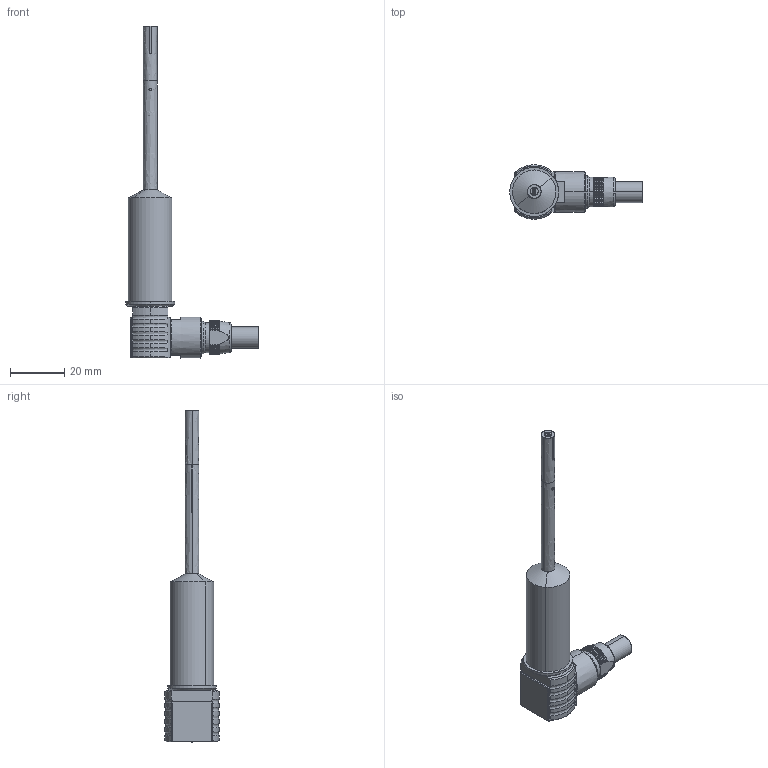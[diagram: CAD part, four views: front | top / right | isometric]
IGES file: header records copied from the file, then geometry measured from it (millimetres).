
Start section: SolidWorks IGES file using analytic representation for surfaces
Global section: file name: C:\SolidWorks Data (2)\Winker Foser\RISO5 Zeichnungen\RISO5_lang_Stecker_rw.IGS; native system: SolidWorks 2010; preprocessor: SolidWorks 2010; author: m; date: 110221.015908; units: millimetre
Bounding box: 48.7 x 20 x 122 mm (x, y, z)
Surface area: 6333.5 mm2 (no closed solid volume)
Topology: 0 solids, 0 shells, 1299 faces, 5878 edges, 5876 vertices
Faces by surface type: bspline 706, revolution 593
